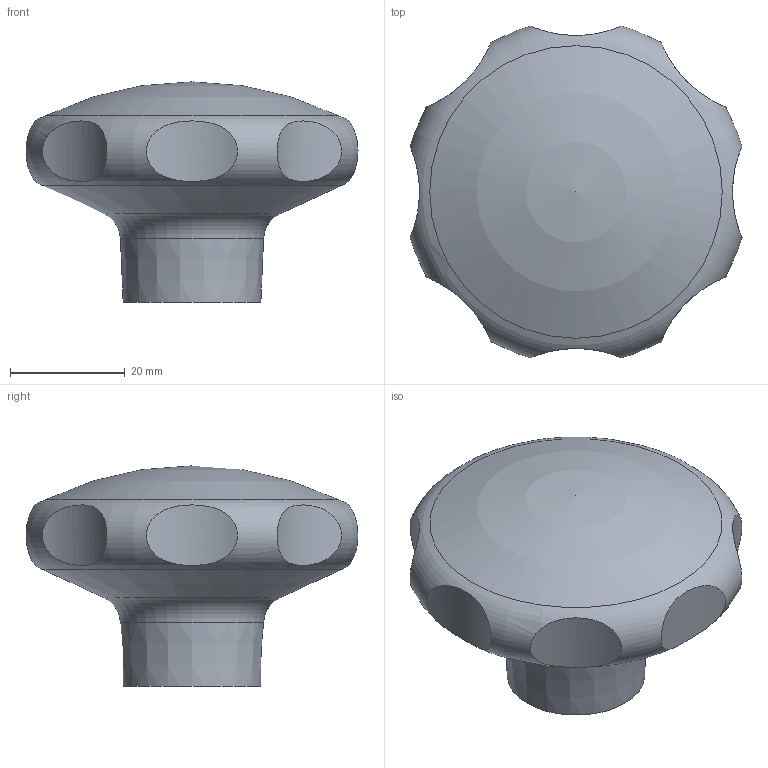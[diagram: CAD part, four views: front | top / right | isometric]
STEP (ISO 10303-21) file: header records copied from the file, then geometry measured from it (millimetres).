
FILE_DESCRIPTION( ('This file contains a STEP AP42 implementation' ,'as created by ZW3D STEP Interface translator.') ,'2;1' );
FILE_NAME( 'RC-60.stp' ,'26 811.105518', (''), ('ZWCAD Software Co.'), 'Version 1.0', 'ZW3D to STEP translator', '' );
FILE_SCHEMA(('AP242_MANAGED_MODEL_BASED_3D_ENGINEERING_MIM_LF { 1 0 10303 442 1 1 4 }'));
Length unit declared in the file: millimetre
Products named in the file (1): 0
Bounding box: 57.88 x 57.88 x 38.4 mm (x, y, z)
Volume: 32701.6 mm3; surface area: 21368.2 mm2
Topology: 3 solids, 3 shells, 63 faces, 126 edges, 78 vertices
Faces by surface type: plane 26, cylinder 25, cone 6, sphere 3, torus 3
Full cylindrical faces by diameter (mm): 6.8 x1, 10 x2, 13.3 x1, 14 x1, 17.1 x1, 30.8 x1, 49.5 x1, 50.5 x1, 51 x2
Entity records: 1912 total; most frequent: CARTESIAN_POINT 490, DIRECTION 291, ORIENTED_EDGE 248, EDGE_CURVE 124, AXIS2_PLACEMENT_3D 119, VERTEX_POINT 78, EDGE_LOOP 78, FACE_OUTER_BOUND 63
